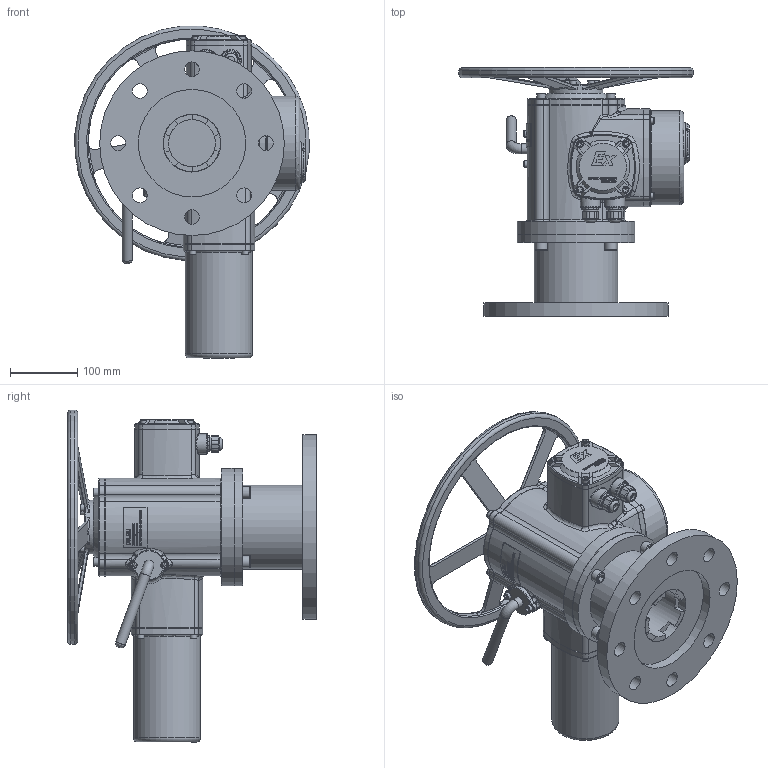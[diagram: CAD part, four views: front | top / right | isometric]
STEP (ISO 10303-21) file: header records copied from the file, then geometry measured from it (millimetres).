
FILE_DESCRIPTION(/* description */ ('D300-04897','CAx-IF Rec.Pracs.---Representation and Presentation of Product Manufacturing Information (PMI)---4.0---2014-10-13'),/* implementation_level */ '2;1');
FILE_NAME(/* name */ '',/* time_stamp */ '2026-03-16T02:00:12+03:00',/* author */ ('DN.RU'),/* organization */ ('DN.RU'),/* preprocessor_version */ 'ST-DEVELOPER v20',/* originating_system */ 'Autodesk Inventor 2025',/* authorisation */ '');
FILE_SCHEMA (('AP242_MANAGED_MODEL_BASED_3D_ENGINEERING_MIM_LF { 1 0 10303 442 1 1 4 }'));
Products named in the file (1): MT-N-060EM-O2-220VAC-У1
Bounding box: 349.04 x 370.5 x 494.52 mm (x, y, z)
Volume: 10578717.7 mm3; surface area: 811014.6 mm2
Topology: 2 solids, 8 shells, 2259 faces, 5960 edges, 3895 vertices
Faces by surface type: plane 1043, bspline 569, cylinder 384, torus 151, cone 106, sphere 6
Full cylindrical faces by diameter (mm): 2.224 x1, 2.5 x1, 3 x1, 6 x12, 7 x7, 8 x4, 10 x19, 10.772 x2, 12 x4, 13 x4, 15 x6, 18 x4, 18.963 x2, 21.521 x2, 22 x8, 30 x2, 32.618 x1, 38 x1, 39.966 x1, 40 x2, 40.456 x1, 42 x1, 50 x1, 60.335 x1, 60.968 x1, 70 x1, 76.454 x1, 80 x1, 85 x1, 86 x1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
Entity records: 89974 total; most frequent: CARTESIAN_POINT 35318, ORIENTED_EDGE 11834, DIRECTION 9427, EDGE_CURVE 5917, VERTEX_POINT 3895, AXIS2_PLACEMENT_3D 3364, LINE 2699, VECTOR 2699
